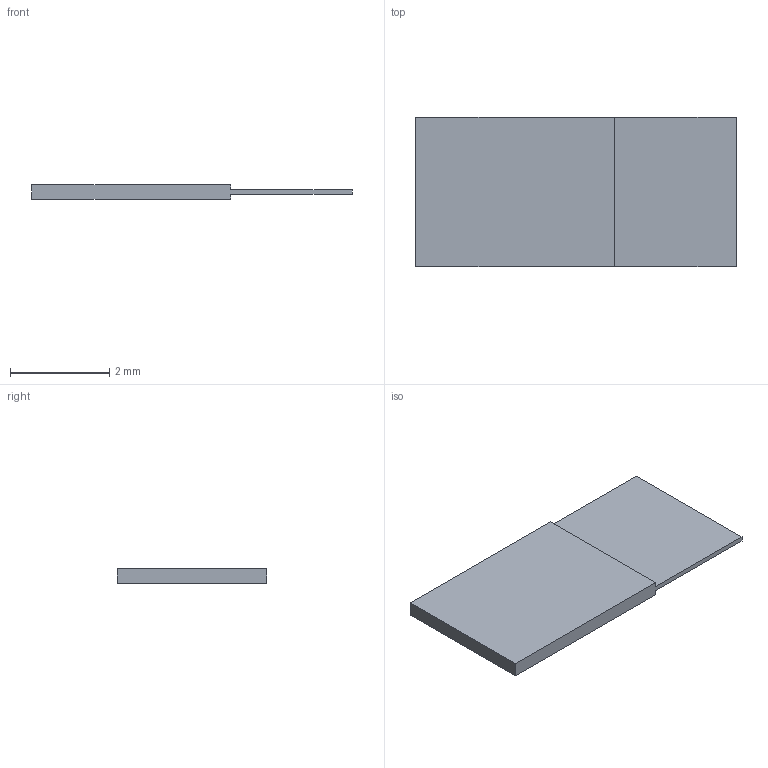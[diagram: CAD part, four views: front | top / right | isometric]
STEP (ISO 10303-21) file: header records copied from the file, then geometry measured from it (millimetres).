
FILE_DESCRIPTION(('Open CASCADE Model'),'2;1');
FILE_NAME('Open CASCADE Shape Model','2026-11-23T18:10:19',('Author'),( 'Open CASCADE'),'Open CASCADE STEP processor 8.0','build123d', 'Unknown');
FILE_SCHEMA(('AUTOMOTIVE_DESIGN { 1 0 10303 214 1 1 1 1 }'));
Length unit declared in the file: millimetre
Products named in the file (1): SOLID
Bounding box: 6.45 x 3 x 0.3 mm (x, y, z)
Volume: 4.3 mm3; surface area: 43.4 mm2
Topology: 1 solids, 1 shells, 10 faces, 24 edges, 16 vertices
Faces by surface type: plane 10
Entity records: 606 total; most frequent: CARTESIAN_POINT 103, DIRECTION 90, LINE 68, VECTOR 68, ORIENTED_EDGE 48, PCURVE 48, DEFINITIONAL_REPRESENTATION 48, EDGE_CURVE 24
